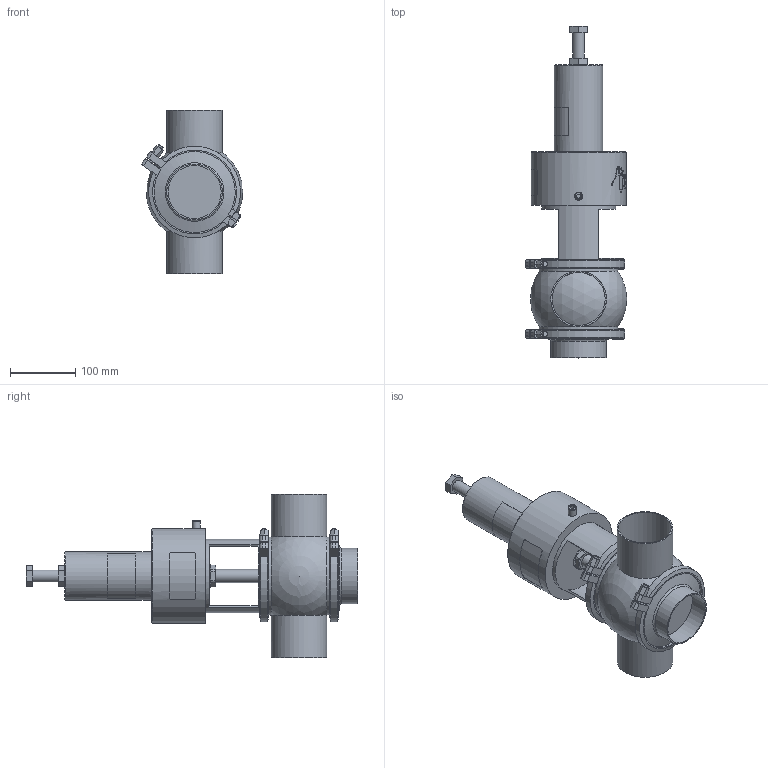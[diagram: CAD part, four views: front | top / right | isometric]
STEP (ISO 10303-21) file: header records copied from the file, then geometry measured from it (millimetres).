
FILE_DESCRIPTION (( 'STEP AP214' ), '1' );
FILE_NAME ('INNOVA J T W DIN 080_10.245.16.0002.STEP', '2024-08-08T08:02:47', ( '' ), ( '' ), 'SwSTEP 2.0', 'SolidWorks 2023', '' );
FILE_SCHEMA (( 'AUTOMOTIVE_DESIGN' ));
Length unit declared in the file: millimetre
Products named in the file (6): 10.240.15.0007_DIN 080; INNOVA J T W DIN 080_10.245.16.0002; 10.247.15.0001_DIN 080; 10.245.15.0001_T3 SE NC_DN 065; 10.240.15.0010_DN 080; 10.240.15.0001_DN 080
Assembly tree (6 placements, depth 2):
  INNOVA J T W DIN 080_10.245.16.0002
    10.240.15.0007_DIN 080
    10.247.15.0001_DIN 080
    10.240.15.0010_DN 080
    10.245.15.0001_T3 SE NC_DN 065
    10.240.15.0001_DN 080  x2
Bounding box: 154.93 x 507 x 250 mm (x, y, z)
Volume: 3964363.9 mm3; surface area: 417114.6 mm2
Topology: 6 solids, 6 shells, 382 faces, 1020 edges, 671 vertices
Faces by surface type: plane 191, cylinder 82, bspline 78, cone 25, sphere 4, torus 2
Full cylindrical faces by diameter (mm): 6.15 x1, 8 x4, 10.5 x1, 12.5 x2, 18 x1, 20 x1, 36.5 x1, 74 x1, 81 x3, 85 x3, 113 x1, 120 x2, 132 x4, 145 x1
Entity records: 20110 total; most frequent: CARTESIAN_POINT 11092, ORIENTED_EDGE 1598, DIRECTION 1205, EDGE_CURVE 799, VERTEX_POINT 548, AXIS2_PLACEMENT_3D 450, EDGE_LOOP 391, FACE_OUTER_BOUND 350
